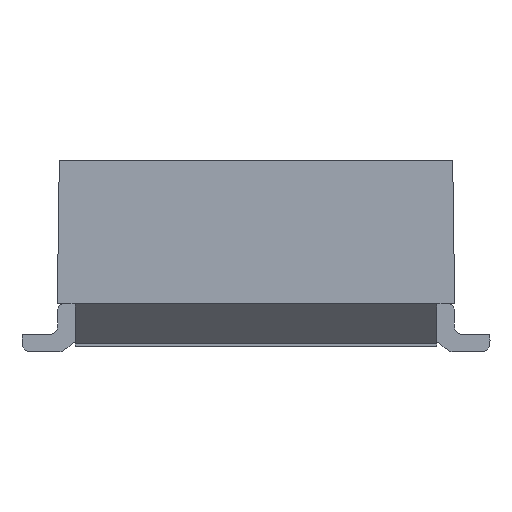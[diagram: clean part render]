
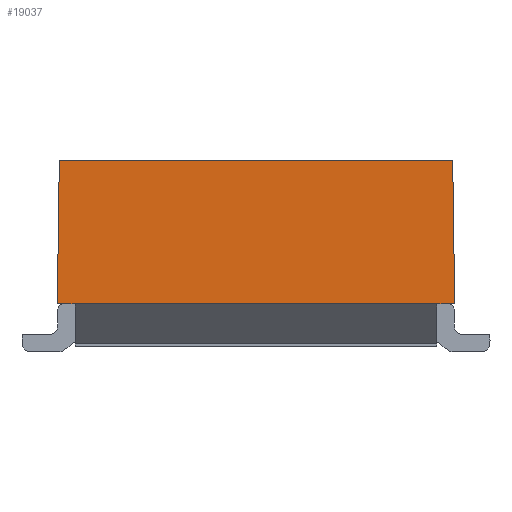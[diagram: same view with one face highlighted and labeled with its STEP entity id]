
A CAD part, front view. The second image highlights one B-rep face of the part: STEP entity #19037.
In plain terms, the highlighted planar face has unit normal (0, -1, 0).
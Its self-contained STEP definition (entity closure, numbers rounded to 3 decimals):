
#454 = ORIENTED_EDGE ( 'NONE', *, *, #2384, .T. ) ;
#540 = DIRECTION ( 'NONE',  ( 1., 0., 0. ) ) ;
#582 = AXIS2_PLACEMENT_3D ( 'NONE', #3115, #7444, #4968 ) ;
#971 = EDGE_CURVE ( 'NONE', #4954, #30185, #12268, .T. ) ;
#1179 = VERTEX_POINT ( 'NONE', #30140 ) ;
#1870 = EDGE_CURVE ( 'NONE', #23655, #11502, #26306, .T. ) ;
#2384 = EDGE_CURVE ( 'NONE', #20131, #1179, #15759, .T. ) ;
#2502 = VECTOR ( 'NONE', #23796, 1000. ) ;
#3115 = CARTESIAN_POINT ( 'NONE',  ( 47.75, -4.3, -0.8 ) ) ;
#3390 = ORIENTED_EDGE ( 'NONE', *, *, #22038, .F. ) ;
#3783 = ORIENTED_EDGE ( 'NONE', *, *, #25616, .T. ) ;
#4040 = DIRECTION ( 'NONE',  ( -0.014, 0., 1. ) ) ;
#4954 = VERTEX_POINT ( 'NONE', #16271 ) ;
#4968 = DIRECTION ( 'NONE',  ( 1., 0., 0. ) ) ;
#4984 = LINE ( 'NONE', #9617, #2502 ) ;
#5862 = LINE ( 'NONE', #17724, #10769 ) ;
#6014 = DIRECTION ( 'NONE',  ( -1., 0., 0. ) ) ;
#6517 = CARTESIAN_POINT ( 'NONE',  ( 48.564, -4.3, 0.25 ) ) ;
#7131 = VECTOR ( 'NONE', #22326, 1000. ) ;
#7444 = DIRECTION ( 'NONE',  ( 0., 1., 0. ) ) ;
#8140 = CARTESIAN_POINT ( 'NONE',  ( 51.45, -4.3, -0.8 ) ) ;
#8838 = EDGE_CURVE ( 'NONE', #23655, #4954, #4984, .T. ) ;
#9003 = CARTESIAN_POINT ( 'NONE',  ( 48.55, -4.3, -0.8 ) ) ;
#9590 = EDGE_LOOP ( 'NONE', ( #30216, #3390, #454, #3783, #20657, #22098 ) ) ;
#9617 = CARTESIAN_POINT ( 'NONE',  ( 48.56, -4.3, -0.8 ) ) ;
#10769 = VECTOR ( 'NONE', #6014, 1000. ) ;
#11502 = VERTEX_POINT ( 'NONE', #6517 ) ;
#11968 = DIRECTION ( 'NONE',  ( 0.014, 0., 1. ) ) ;
#12268 = LINE ( 'NONE', #21674, #29423 ) ;
#12919 = CARTESIAN_POINT ( 'NONE',  ( 51.44, -4.3, -0.8 ) ) ;
#13867 = VECTOR ( 'NONE', #4040, 1000. ) ;
#15685 = CARTESIAN_POINT ( 'NONE',  ( 51.32, -4.3, -0.8 ) ) ;
#15759 = LINE ( 'NONE', #25166, #13867 ) ;
#16271 = CARTESIAN_POINT ( 'NONE',  ( 48.68, -4.3, -0.8 ) ) ;
#16696 = FACE_OUTER_BOUND ( 'NONE', #9590, .T. ) ;
#17724 = CARTESIAN_POINT ( 'NONE',  ( 51.44, -4.3, 0.25 ) ) ;
#19005 = PLANE ( 'NONE',  #582 ) ;
#19037 = ADVANCED_FACE ( 'NONE', ( #16696 ), #19005, .F. ) ;
#20131 = VERTEX_POINT ( 'NONE', #8140 ) ;
#20657 = ORIENTED_EDGE ( 'NONE', *, *, #1870, .F. ) ;
#21529 = CARTESIAN_POINT ( 'NONE',  ( 48.56, -4.3, -0.059 ) ) ;
#21674 = CARTESIAN_POINT ( 'NONE',  ( 48.68, -4.3, -0.8 ) ) ;
#22038 = EDGE_CURVE ( 'NONE', #20131, #30185, #29266, .T. ) ;
#22098 = ORIENTED_EDGE ( 'NONE', *, *, #8838, .T. ) ;
#22326 = DIRECTION ( 'NONE',  ( -1., 0., 0. ) ) ;
#23655 = VERTEX_POINT ( 'NONE', #9003 ) ;
#23796 = DIRECTION ( 'NONE',  ( 1., 0., 0. ) ) ;
#25166 = CARTESIAN_POINT ( 'NONE',  ( 51.44, -4.3, -0.059 ) ) ;
#25379 = VECTOR ( 'NONE', #11968, 1000. ) ;
#25616 = EDGE_CURVE ( 'NONE', #1179, #11502, #5862, .T. ) ;
#26306 = LINE ( 'NONE', #21529, #25379 ) ;
#29266 = LINE ( 'NONE', #12919, #7131 ) ;
#29423 = VECTOR ( 'NONE', #540, 1000. ) ;
#30140 = CARTESIAN_POINT ( 'NONE',  ( 51.436, -4.3, 0.25 ) ) ;
#30185 = VERTEX_POINT ( 'NONE', #15685 ) ;
#30216 = ORIENTED_EDGE ( 'NONE', *, *, #971, .T. ) ;
